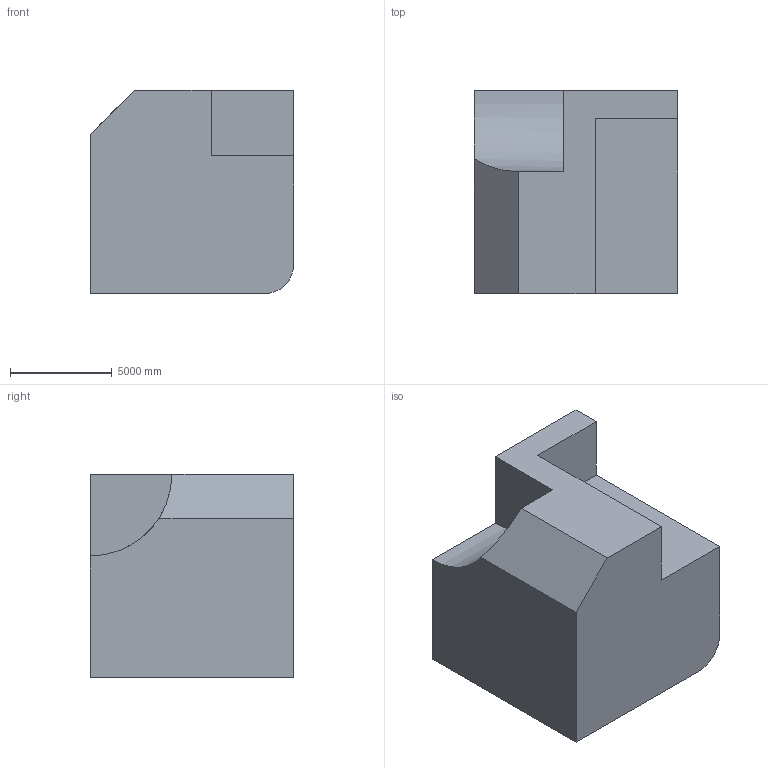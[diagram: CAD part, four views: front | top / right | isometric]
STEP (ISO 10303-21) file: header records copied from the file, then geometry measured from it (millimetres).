
FILE_DESCRIPTION (( 'STEP AP203' ), '1' );
FILE_NAME ('1348.STEP', '2022-08-18T13:58:43', ( 'user' ), ( '' ), 'SwSTEP 2.0', 'SolidWorks 2021', '' );
FILE_SCHEMA (( 'CONFIG_CONTROL_DESIGN' ));
Length unit declared in the file: centimetre
Products named in the file (1): 1348
Bounding box: 10000 x 10000 x 10000 mm (x, y, z)
Volume: 813318647363.8 mm3; surface area: 573173235.5 mm2
Topology: 1 solids, 1 shells, 13 faces, 33 edges, 22 vertices
Faces by surface type: plane 11, cylinder 2
Entity records: 468 total; most frequent: CARTESIAN_POINT 72, ORIENTED_EDGE 66, DIRECTION 64, EDGE_CURVE 33, LINE 28, VECTOR 28, VERTEX_POINT 22, AXIS2_PLACEMENT_3D 18
